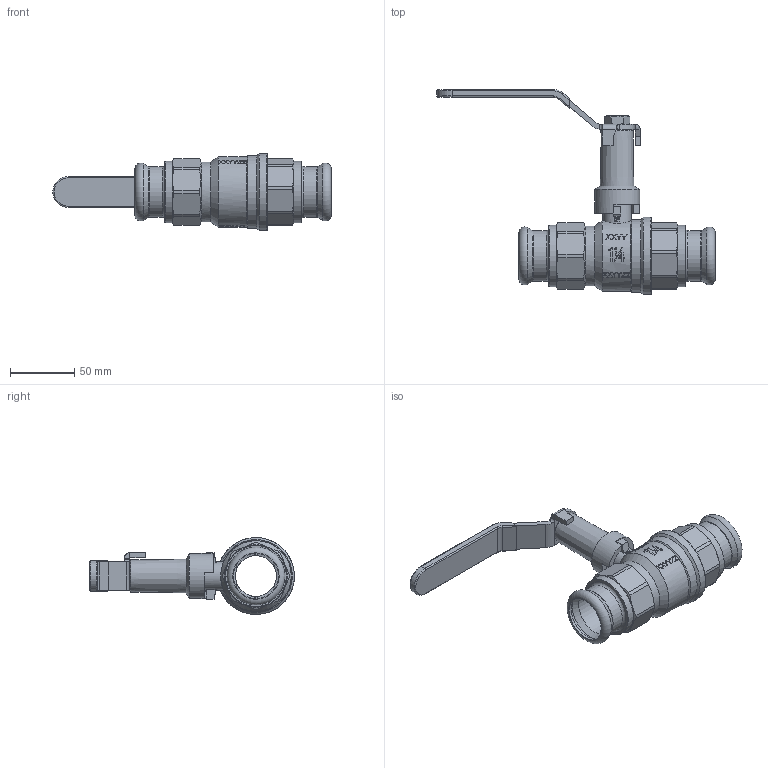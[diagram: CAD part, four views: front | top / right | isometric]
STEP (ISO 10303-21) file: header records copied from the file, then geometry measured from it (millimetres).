
FILE_DESCRIPTION((''),'2;1');
FILE_NAME('P:\Fastrack\53972_CRANE 3D\Press Fit\D171APF\Extension\35MM\D171AEXS-PF-35MM.stp','2012-01-18T16:43:00',('dcole'),(''),'Autodesk Inventor 2008','Autodesk Inventor 2008','');
FILE_SCHEMA(('AUTOMOTIVE_DESIGN { 1 0 10303 214 1 1 1 1 }'));
Length unit declared in the file: millimetre
Products named in the file (1): D171AEXS-PF-35MM
Bounding box: 216.2 x 159.09 x 59.79 mm (x, y, z)
Volume: 202172.2 mm3; surface area: 74518.2 mm2
Topology: 1 solids, 1 shells, 870 faces, 2620 edges, 1866 vertices
Faces by surface type: plane 452, bspline 196, cylinder 136, cone 73, torus 13
Full cylindrical faces by diameter (mm): 2 x1, 10.25 x1, 12 x1, 12.1 x2, 12.5 x1, 13 x1, 15.5 x1, 16 x1, 16.1 x1, 16.3 x1, 16.5 x2, 22 x1, 25.5 x1, 32 x5, 35 x5, 38.952 x2, 39 x2, 46.5 x1, 47.6 x2, 54.8 x1, 56.5 x1, 59.8 x1
Entity records: 62942 total; most frequent: CARTESIAN_POINT 40182, ORIENTED_EDGE 5006, DIRECTION 3681, EDGE_CURVE 2503, VERTEX_POINT 1834, VECTOR 1329, LINE 1329, AXIS2_PLACEMENT_3D 1176
